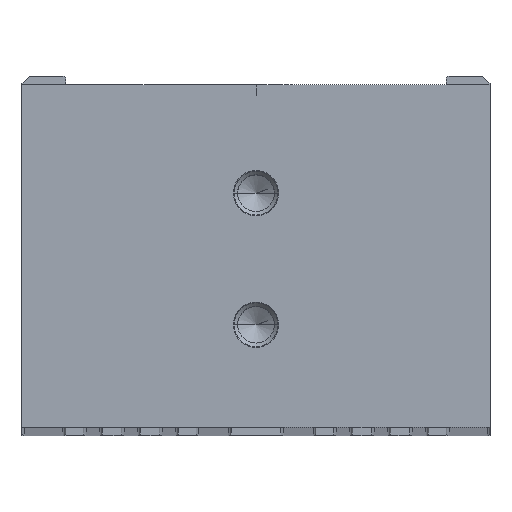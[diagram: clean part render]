
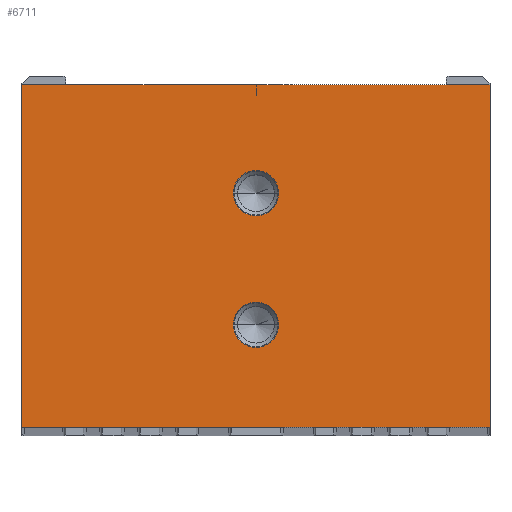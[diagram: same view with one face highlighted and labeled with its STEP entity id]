
A CAD part, top view. The second image highlights one B-rep face of the part: STEP entity #6711.
In plain terms, the highlighted planar face has unit normal (0, 0, 1).
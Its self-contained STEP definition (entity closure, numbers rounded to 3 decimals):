
#1380=DIRECTION('',(0.,-1.,0.));
#1381=VECTOR('',#1380,23.4);
#1382=CARTESIAN_POINT('',(-16.,11.402,170.));
#1383=LINE('',#1382,#1381);
#1384=DIRECTION('',(-1.,0.,0.));
#1385=VECTOR('',#1384,32.);
#1386=CARTESIAN_POINT('',(16.,11.402,170.));
#1387=LINE('',#1386,#1385);
#1388=DIRECTION('',(0.,1.,0.));
#1389=VECTOR('',#1388,23.4);
#1390=CARTESIAN_POINT('',(16.,-11.998,170.));
#1391=LINE('',#1390,#1389);
#1392=DIRECTION('',(1.,0.,0.));
#1393=VECTOR('',#1392,32.);
#1394=CARTESIAN_POINT('',(-16.,-11.998,170.));
#1395=LINE('',#1394,#1393);
#1396=CARTESIAN_POINT('',(0.,4.002,170.));
#1397=DIRECTION('',(0.,0.,-1.));
#1398=DIRECTION('',(1.,0.,0.));
#1399=AXIS2_PLACEMENT_3D('',#1396,#1397,#1398);
#1401=CARTESIAN_POINT('',(0.,4.002,170.));
#1402=DIRECTION('',(0.,0.,-1.));
#1403=DIRECTION('',(-1.,0.,0.));
#1404=AXIS2_PLACEMENT_3D('',#1401,#1402,#1403);
#1406=CARTESIAN_POINT('',(0.,-4.998,170.));
#1407=DIRECTION('',(0.,0.,-1.));
#1408=DIRECTION('',(1.,0.,0.));
#1409=AXIS2_PLACEMENT_3D('',#1406,#1407,#1408);
#1411=CARTESIAN_POINT('',(0.,-4.998,170.));
#1412=DIRECTION('',(0.,0.,-1.));
#1413=DIRECTION('',(-1.,0.,0.));
#1414=AXIS2_PLACEMENT_3D('',#1411,#1412,#1413);
#3146=CARTESIAN_POINT('',(-16.,11.402,170.));
#3147=CARTESIAN_POINT('',(-16.,-11.998,170.));
#3148=VERTEX_POINT('',#3146);
#3149=VERTEX_POINT('',#3147);
#3150=CARTESIAN_POINT('',(16.,-11.998,170.));
#3151=VERTEX_POINT('',#3150);
#3152=CARTESIAN_POINT('',(16.,11.402,170.));
#3153=VERTEX_POINT('',#3152);
#4082=CARTESIAN_POINT('',(1.55,4.002,170.));
#4083=CARTESIAN_POINT('',(-1.55,4.002,170.));
#4084=VERTEX_POINT('',#4082);
#4085=VERTEX_POINT('',#4083);
#4090=CARTESIAN_POINT('',(1.55,-4.998,170.));
#4091=CARTESIAN_POINT('',(-1.55,-4.998,
170.));
#4092=VERTEX_POINT('',#4090);
#4093=VERTEX_POINT('',#4091);
#6688=CARTESIAN_POINT('',(0.,0.,170.));
#6689=DIRECTION('',(0.,0.,1.));
#6690=DIRECTION('',(1.,0.,0.));
#6691=AXIS2_PLACEMENT_3D('',#6688,#6689,#6690);
#6692=PLANE('',#6691);
#6693=ORIENTED_EDGE('',*,*,#4282,.F.);
#6694=ORIENTED_EDGE('',*,*,#4187,.F.);
#6695=ORIENTED_EDGE('',*,*,#5040,.F.);
#6696=ORIENTED_EDGE('',*,*,#6413,.F.);
#6697=EDGE_LOOP('',(#6693,#6694,#6695,#6696));
#6698=FACE_OUTER_BOUND('',#6697,.F.);
#6700=ORIENTED_EDGE('',*,*,#6699,.F.);
#6702=ORIENTED_EDGE('',*,*,#6701,.F.);
#6703=EDGE_LOOP('',(#6700,#6702));
#6704=FACE_BOUND('',#6703,.F.);
#6706=ORIENTED_EDGE('',*,*,#6705,.F.);
#6708=ORIENTED_EDGE('',*,*,#6707,.F.);
#6709=EDGE_LOOP('',(#6706,#6708));
#6710=FACE_BOUND('',#6709,.F.);
#1400=CIRCLE('',#1399,1.55);
#1405=CIRCLE('',#1404,1.55);
#1410=CIRCLE('',#1409,1.55);
#1415=CIRCLE('',#1414,1.55);
#4187=EDGE_CURVE('',#3153,#3148,#1387,.T.);
#4282=EDGE_CURVE('',#3148,#3149,#1383,.T.);
#5040=EDGE_CURVE('',#3151,#3153,#1391,.T.);
#6413=EDGE_CURVE('',#3149,#3151,#1395,.T.);
#6699=EDGE_CURVE('',#4084,#4085,#1400,.T.);
#6701=EDGE_CURVE('',#4085,#4084,#1405,.T.);
#6705=EDGE_CURVE('',#4092,#4093,#1410,.T.);
#6707=EDGE_CURVE('',#4093,#4092,#1415,.T.);
#6711=ADVANCED_FACE('',(#6698,#6704,#6710),#6692,.T.);
